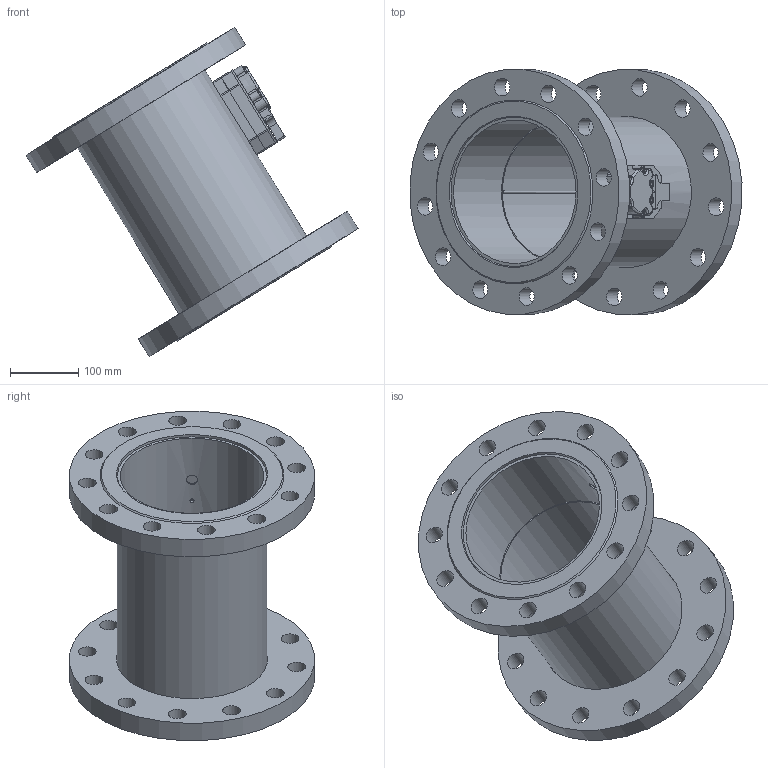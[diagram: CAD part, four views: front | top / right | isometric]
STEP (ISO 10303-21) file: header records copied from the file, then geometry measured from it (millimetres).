
FILE_DESCRIPTION( ( 'Unknown' ), '1' );
FILE_NAME( 'H:/440 pour vente_mai_2013/step_2/DN200_PN25_inox_350mm_rempli.stp', 'Unknown', ( 'Unknown' ), ( 'Unknown' ), 'PSStep 15.0.49', 'Unknown', ' ' );
FILE_SCHEMA( ( 'AUTOMOTIVE_DESIGN { 1 0 10303 214 1 1 1 1 }' ) );
Length unit declared in the file: millimetre
Products named in the file (9): 440_tête_rempli; 0440P011_rempli; 0440P012_rempli; 0440P060_rempli; Assem1; 0440P202_rempli; 0440P225_rempli; 0440P236_rempli; 0440P307_rempli
Assembly tree (10 placements, depth 3):
  Assem1
    0440P202_rempli
    0440P225_rempli  x2
    0440P236_rempli
    0440P307_rempli  x2
    440_tête_rempli
      0440P011_rempli
      0440P012_rempli
      0440P060_rempli
Bounding box: 486.67 x 358.91 x 482.42 mm (x, y, z)
Volume: 5122230.5 mm3; surface area: 960177.4 mm2
Topology: 9 solids, 14 shells, 284 faces, 733 edges, 464 vertices
Faces by surface type: cylinder 104, plane 79, cone 57, torus 29, bspline 15
Full cylindrical faces by diameter (mm): 2.2 x1, 2.459 x2, 2.5 x1, 3 x2, 3.242 x4, 4.1 x1, 5.03 x1, 6 x1, 6.2 x6, 6.917 x2, 10.2 x2, 16 x2, 20 x4, 26 x24, 210.5 x1, 219.1 x1, 221.5 x2, 360 x2
Entity records: 13734 total; most frequent: CARTESIAN_POINT 5540, DIRECTION 1305, ORIENTED_EDGE 1106, EDGE_CURVE 553, AXIS2_PLACEMENT_3D 550, VERTEX_POINT 385, EDGE_LOOP 378, FACE_OUTER_BOUND 305
